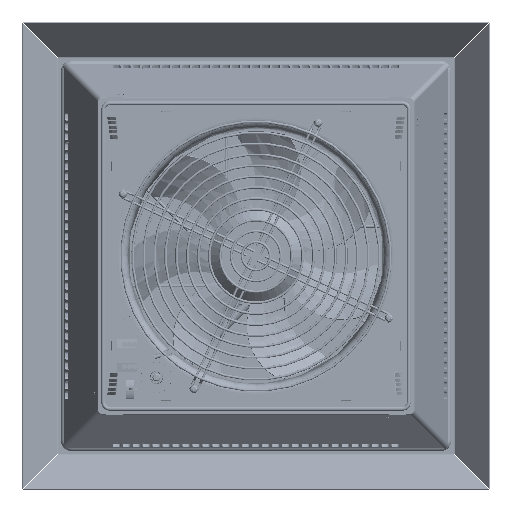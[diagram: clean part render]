
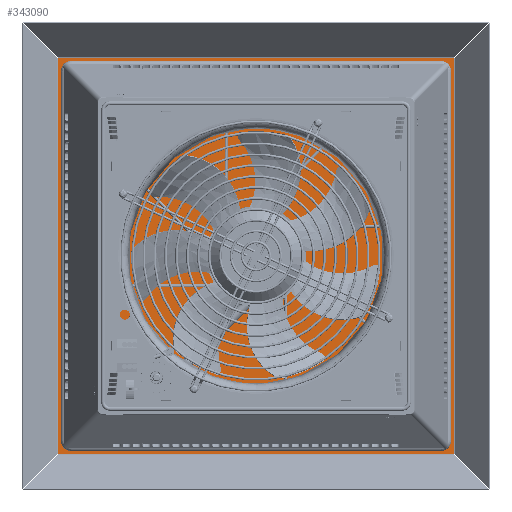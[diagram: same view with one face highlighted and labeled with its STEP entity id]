
A CAD part, front view. The second image highlights one B-rep face of the part: STEP entity #343090.
In plain terms, the highlighted planar face has unit normal (0, -1, 0).
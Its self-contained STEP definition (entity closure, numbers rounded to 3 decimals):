
#222934 = DIRECTION ( 'NONE',  ( 0., 0., -1. ) ) ;
#222935 = DIRECTION ( 'NONE',  ( 0., 1., 0. ) ) ;
#222956 = CIRCLE ( 'NONE', #222997, 2.5 ) ;
#222969 = CARTESIAN_POINT ( 'NONE',  ( 150.25, 89.7, -150.25 ) ) ;
#222997 = AXIS2_PLACEMENT_3D ( 'NONE', #222969, #222935, #222934 ) ;
#223819 = CARTESIAN_POINT ( 'NONE',  ( 150.25, 89.7, 152.75 ) ) ;
#224102 = CARTESIAN_POINT ( 'NONE',  ( 150.25, 89.7, 147.75 ) ) ;
#225418 = CARTESIAN_POINT ( 'NONE',  ( -150.25, 89.7, 147.75 ) ) ;
#225558 = CARTESIAN_POINT ( 'NONE',  ( -150.25, 89.7, 152.75 ) ) ;
#225795 = AXIS2_PLACEMENT_3D ( 'NONE', #226022, #226020, #226018 ) ;
#225805 = CIRCLE ( 'NONE', #225795, 2.5 ) ;
#226018 = DIRECTION ( 'NONE',  ( 0., 0., -1. ) ) ;
#226020 = DIRECTION ( 'NONE',  ( 0., 1., 0. ) ) ;
#226022 = CARTESIAN_POINT ( 'NONE',  ( 150.25, 89.7, 150.25 ) ) ;
#226761 = CARTESIAN_POINT ( 'NONE',  ( -150.25, 89.7, -152.75 ) ) ;
#228376 = CARTESIAN_POINT ( 'NONE',  ( 150.25, 89.7, -152.75 ) ) ;
#228668 = CARTESIAN_POINT ( 'NONE',  ( 150.25, 89.7, -147.75 ) ) ;
#229242 = CARTESIAN_POINT ( 'NONE',  ( -150.25, 89.7, -147.75 ) ) ;
#230165 = CIRCLE ( 'NONE', #230342, 2.5 ) ;
#230169 = DIRECTION ( 'NONE',  ( 0., 0., -1. ) ) ;
#230172 = DIRECTION ( 'NONE',  ( 0., 1., 0. ) ) ;
#230175 = AXIS2_PLACEMENT_3D ( 'NONE', #230205, #230172, #230169 ) ;
#230193 = CIRCLE ( 'NONE', #230175, 2.5 ) ;
#230205 = CARTESIAN_POINT ( 'NONE',  ( -150.25, 89.7, -150.25 ) ) ;
#230297 = DIRECTION ( 'NONE',  ( 0., 0., -1. ) ) ;
#230301 = DIRECTION ( 'NONE',  ( 0., 1., 0. ) ) ;
#230342 = AXIS2_PLACEMENT_3D ( 'NONE', #230371, #230301, #230297 ) ;
#230371 = CARTESIAN_POINT ( 'NONE',  ( -150.25, 89.7, 150.25 ) ) ;
#234327 = DIRECTION ( 'NONE',  ( 0., 0., -1. ) ) ;
#234406 = DIRECTION ( 'NONE',  ( 0., -1., 0. ) ) ;
#235598 = CARTESIAN_POINT ( 'NONE',  ( 150.25, 89.7, 150.25 ) ) ;
#235625 = AXIS2_PLACEMENT_3D ( 'NONE', #235598, #235866, #235864 ) ;
#235651 = CIRCLE ( 'NONE', #235625, 2.5 ) ;
#235864 = DIRECTION ( 'NONE',  ( 0., 0., -1. ) ) ;
#235866 = DIRECTION ( 'NONE',  ( 0., 1., 0. ) ) ;
#238248 = AXIS2_PLACEMENT_3D ( 'NONE', #238331, #234406, #234327 ) ;
#238312 = FACE_BOUND ( 'NONE', #343008, .T. ) ;
#238331 = CARTESIAN_POINT ( 'NONE',  ( -200., 89.7, -200. ) ) ;
#238396 = FACE_BOUND ( 'NONE', #343464, .T. ) ;
#238400 = FACE_OUTER_BOUND ( 'NONE', #343293, .T. ) ;
#238512 = FACE_BOUND ( 'NONE', #343233, .T. ) ;
#238563 = PLANE ( 'NONE',  #238248 ) ;
#238717 = FACE_BOUND ( 'NONE', #343533, .T. ) ;
#239936 = CARTESIAN_POINT ( 'NONE',  ( -199.092, 89.7, -199.092 ) ) ;
#240014 = DIRECTION ( 'NONE',  ( 0., 0., -1. ) ) ;
#240018 = DIRECTION ( 'NONE',  ( 0., 1., 0. ) ) ;
#240039 = AXIS2_PLACEMENT_3D ( 'NONE', #240125, #240018, #240014 ) ;
#240106 = CIRCLE ( 'NONE', #240039, 2.5 ) ;
#240125 = CARTESIAN_POINT ( 'NONE',  ( -150.25, 89.7, -150.25 ) ) ;
#240414 = CARTESIAN_POINT ( 'NONE',  ( 199.092, 89.7, 199.092 ) ) ;
#240561 = CIRCLE ( 'NONE', #240595, 2.5 ) ;
#240574 = CARTESIAN_POINT ( 'NONE',  ( -150.25, 89.7, 150.25 ) ) ;
#240595 = AXIS2_PLACEMENT_3D ( 'NONE', #240574, #240821, #240818 ) ;
#240656 = LINE ( 'NONE', #240765, #240694 ) ;
#240694 = VECTOR ( 'NONE', #240764, 1000. ) ;
#240764 = DIRECTION ( 'NONE',  ( 0., 0., -1. ) ) ;
#240765 = CARTESIAN_POINT ( 'NONE',  ( -199.092, 89.7, 200. ) ) ;
#240818 = DIRECTION ( 'NONE',  ( 0., 0., -1. ) ) ;
#240821 = DIRECTION ( 'NONE',  ( 0., 1., 0. ) ) ;
#241302 = DIRECTION ( 'NONE',  ( 0., 0., -1. ) ) ;
#241306 = DIRECTION ( 'NONE',  ( 0., 1., 0. ) ) ;
#241310 = CARTESIAN_POINT ( 'NONE',  ( 150.25, 89.7, -150.25 ) ) ;
#241329 = CIRCLE ( 'NONE', #241349, 2.5 ) ;
#241349 = AXIS2_PLACEMENT_3D ( 'NONE', #241310, #241306, #241302 ) ;
#241402 = DIRECTION ( 'NONE',  ( 0., 0., 1. ) ) ;
#241404 = VECTOR ( 'NONE', #241402, 1000. ) ;
#241407 = CARTESIAN_POINT ( 'NONE',  ( 199.092, 89.7, -200. ) ) ;
#241417 = LINE ( 'NONE', #241407, #241404 ) ;
#241540 = CARTESIAN_POINT ( 'NONE',  ( 199.092, 89.7, -199.092 ) ) ;
#242097 = CARTESIAN_POINT ( 'NONE',  ( -199.092, 89.7, 199.092 ) ) ;
#242135 = DIRECTION ( 'NONE',  ( 1., 0., 0. ) ) ;
#242136 = VECTOR ( 'NONE', #242135, 1000. ) ;
#242140 = LINE ( 'NONE', #242173, #242136 ) ;
#242173 = CARTESIAN_POINT ( 'NONE',  ( -200., 89.7, -199.092 ) ) ;
#245472 = DIRECTION ( 'NONE',  ( -1., 0., 0. ) ) ;
#245473 = VECTOR ( 'NONE', #245472, 1000. ) ;
#245479 = CARTESIAN_POINT ( 'NONE',  ( 2200., 89.7, 199.092 ) ) ;
#245482 = LINE ( 'NONE', #245479, #245473 ) ;
#340720 = EDGE_CURVE ( 'NONE', #341700, #341716, #222956, .T. ) ;
#340960 = VERTEX_POINT ( 'NONE', #224102 ) ;
#340978 = VERTEX_POINT ( 'NONE', #223819 ) ;
#341258 = VERTEX_POINT ( 'NONE', #225418 ) ;
#341280 = VERTEX_POINT ( 'NONE', #225558 ) ;
#341300 = EDGE_CURVE ( 'NONE', #340960, #340978, #225805, .T. ) ;
#341424 = VERTEX_POINT ( 'NONE', #226761 ) ;
#341700 = VERTEX_POINT ( 'NONE', #228376 ) ;
#341716 = VERTEX_POINT ( 'NONE', #228668 ) ;
#341812 = VERTEX_POINT ( 'NONE', #229242 ) ;
#341944 = EDGE_CURVE ( 'NONE', #341424, #341812, #230193, .T. ) ;
#341962 = EDGE_CURVE ( 'NONE', #341258, #341280, #230165, .T. ) ;
#342764 = EDGE_CURVE ( 'NONE', #340978, #340960, #235651, .T. ) ;
#343008 = EDGE_LOOP ( 'NONE', ( #343134, #343411 ) ) ;
#343090 = ADVANCED_FACE ( 'NONE', ( #238312, #238396, #238512, #238717, #238400 ), #238563, .T. ) ;
#343134 = ORIENTED_EDGE ( 'NONE', *, *, #342764, .T. ) ;
#343181 = ORIENTED_EDGE ( 'NONE', *, *, #343332, .T. ) ;
#343201 = VERTEX_POINT ( 'NONE', #239936 ) ;
#343222 = EDGE_CURVE ( 'NONE', #341812, #341424, #240106, .T. ) ;
#343233 = EDGE_LOOP ( 'NONE', ( #343442, #343245 ) ) ;
#343245 = ORIENTED_EDGE ( 'NONE', *, *, #341944, .T. ) ;
#343293 = EDGE_LOOP ( 'NONE', ( #343597, #343701, #343367, #343736 ) ) ;
#343309 = VERTEX_POINT ( 'NONE', #240414 ) ;
#343332 = EDGE_CURVE ( 'NONE', #341280, #341258, #240561, .T. ) ;
#343367 = ORIENTED_EDGE ( 'NONE', *, *, #343950, .T. ) ;
#343372 = EDGE_CURVE ( 'NONE', #343569, #343201, #240656, .T. ) ;
#343411 = ORIENTED_EDGE ( 'NONE', *, *, #341300, .T. ) ;
#343416 = EDGE_CURVE ( 'NONE', #341716, #341700, #241329, .T. ) ;
#343426 = VERTEX_POINT ( 'NONE', #241540 ) ;
#343442 = ORIENTED_EDGE ( 'NONE', *, *, #343222, .T. ) ;
#343446 = EDGE_CURVE ( 'NONE', #343426, #343309, #241417, .T. ) ;
#343464 = EDGE_LOOP ( 'NONE', ( #343518, #343473 ) ) ;
#343473 = ORIENTED_EDGE ( 'NONE', *, *, #340720, .T. ) ;
#343518 = ORIENTED_EDGE ( 'NONE', *, *, #343416, .T. ) ;
#343533 = EDGE_LOOP ( 'NONE', ( #343181, #343543 ) ) ;
#343543 = ORIENTED_EDGE ( 'NONE', *, *, #341962, .T. ) ;
#343548 = EDGE_CURVE ( 'NONE', #343201, #343426, #242140, .T. ) ;
#343569 = VERTEX_POINT ( 'NONE', #242097 ) ;
#343597 = ORIENTED_EDGE ( 'NONE', *, *, #343548, .T. ) ;
#343701 = ORIENTED_EDGE ( 'NONE', *, *, #343446, .T. ) ;
#343736 = ORIENTED_EDGE ( 'NONE', *, *, #343372, .T. ) ;
#343950 = EDGE_CURVE ( 'NONE', #343309, #343569, #245482, .T. ) ;
